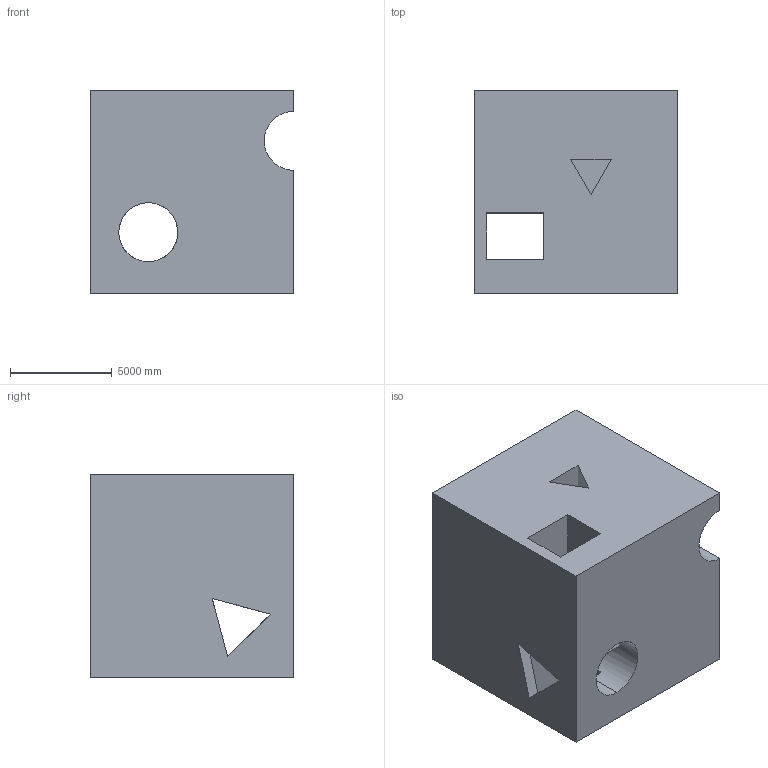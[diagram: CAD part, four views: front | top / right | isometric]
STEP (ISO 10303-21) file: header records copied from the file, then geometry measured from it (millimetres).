
FILE_DESCRIPTION (( 'STEP AP203' ), '1' );
FILE_NAME ('1619.STEP', '2022-08-19T11:06:03', ( 'user' ), ( '' ), 'SwSTEP 2.0', 'SolidWorks 2021', '' );
FILE_SCHEMA (( 'CONFIG_CONTROL_DESIGN' ));
Length unit declared in the file: centimetre
Products named in the file (1): 1619
Bounding box: 10000 x 10000 x 10000 mm (x, y, z)
Volume: 801010141853.4 mm3; surface area: 848850450.8 mm2
Topology: 1 solids, 1 shells, 41 faces, 123 edges, 82 vertices
Faces by surface type: plane 37, cylinder 4
Entity records: 1468 total; most frequent: CARTESIAN_POINT 268, ORIENTED_EDGE 246, DIRECTION 214, EDGE_CURVE 123, LINE 102, VECTOR 102, VERTEX_POINT 82, AXIS2_PLACEMENT_3D 56
